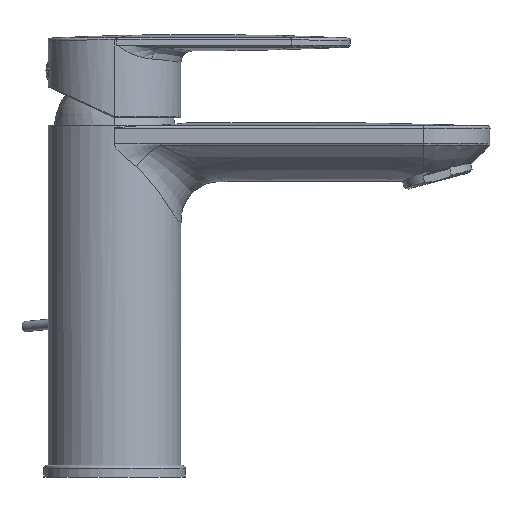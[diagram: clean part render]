
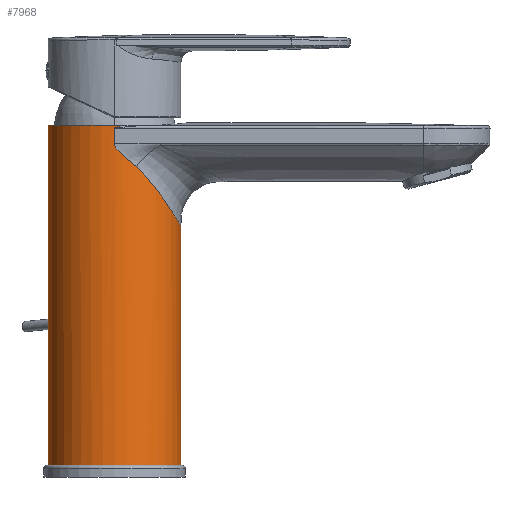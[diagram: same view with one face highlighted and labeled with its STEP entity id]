
A CAD part, top view. The second image highlights one B-rep face of the part: STEP entity #7968.
In plain terms, the highlighted cylindrical face has radius 22.5 mm (diameter 45 mm), a partial arc.
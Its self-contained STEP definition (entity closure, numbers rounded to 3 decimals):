
#1795=CARTESIAN_POINT('',(0.,115.5,0.));
#1796=DIRECTION('',(0.,-1.,0.));
#1797=DIRECTION('',(0.125,0.,0.992));
#1798=AXIS2_PLACEMENT_3D('',#1795,#1796,#1797);
#1894=DIRECTION('',(0.,1.,0.));
#1895=VECTOR('',#1894,81.391);
#1896=CARTESIAN_POINT('',(22.5,0.,0.));
#1897=LINE('',#1896,#1895);
#1968=CARTESIAN_POINT('',(0.,0.,0.));
#1969=DIRECTION('',(0.,1.,0.));
#1970=DIRECTION('',(-1.,0.,0.));
#1971=AXIS2_PLACEMENT_3D('',#1968,#1969,#1970);
#2031=DIRECTION('',(0.,1.,0.));
#2032=VECTOR('',#2031,115.5);
#2033=CARTESIAN_POINT('',(-22.5,0.,0.));
#2034=LINE('',#2033,#2032);
#2035=CARTESIAN_POINT('',(2.817,115.5,22.323));
#2036=CARTESIAN_POINT('',(2.596,115.432,22.351));
#2037=CARTESIAN_POINT('',(2.159,115.295,22.399));
#2038=CARTESIAN_POINT('',(1.614,115.118,22.444));
#2039=CARTESIAN_POINT('',(1.185,114.974,22.47));
#2040=CARTESIAN_POINT('',(0.926,114.885,22.481));
#2041=CARTESIAN_POINT('',(0.731,114.816,22.488));
#2042=CARTESIAN_POINT('',(0.592,114.766,22.492));
#2043=CARTESIAN_POINT('',(0.444,114.714,22.496));
#2044=CARTESIAN_POINT('',(0.278,114.672,22.499));
#2045=CARTESIAN_POINT('',(0.123,114.611,22.5));
#2046=CARTESIAN_POINT('',(0.04,114.543,22.5));
#2047=CARTESIAN_POINT('',(0.,114.507,22.5));
#2049=DIRECTION('',(0.,-1.,0.));
#2050=VECTOR('',#2049,5.272);
#2051=CARTESIAN_POINT('',(0.,114.507,22.5));
#2052=LINE('',#2051,#2050);
#2053=CARTESIAN_POINT('',(0.,109.236,
22.5));
#2054=CARTESIAN_POINT('',(-0.001,109.205,
22.5));
#2055=CARTESIAN_POINT('',(-0.01,109.144,
22.5));
#2056=CARTESIAN_POINT('',(-0.004,109.052,
22.5));
#2057=CARTESIAN_POINT('',(-0.003,108.991,
22.5));
#2058=CARTESIAN_POINT('',(0.,108.96,22.5));
#2060=CARTESIAN_POINT('',(0.,108.96,22.5));
#2061=CARTESIAN_POINT('',(-0.01,108.839,
22.5));
#2062=CARTESIAN_POINT('',(0.024,108.566,22.5));
#2063=CARTESIAN_POINT('',(0.328,107.879,22.498));
#2064=CARTESIAN_POINT('',(0.607,107.471,22.492));
#2065=CARTESIAN_POINT('',(0.932,107.05,22.482));
#2066=CARTESIAN_POINT('',(1.397,106.523,22.459));
#2067=CARTESIAN_POINT('',(2.022,105.894,22.413));
#2068=CARTESIAN_POINT('',(2.593,105.376,22.352));
#2069=CARTESIAN_POINT('',(2.911,105.095,22.311));
#2071=CARTESIAN_POINT('',(7.367,101.361,21.26));
#2072=CARTESIAN_POINT('',(7.5,101.236,21.213));
#2073=CARTESIAN_POINT('',(7.767,100.985,21.119));
#2074=CARTESIAN_POINT('',(8.297,100.479,20.917));
#2075=CARTESIAN_POINT('',(9.209,99.592,20.543));
#2076=CARTESIAN_POINT('',(10.471,98.309,19.938));
#2077=CARTESIAN_POINT('',(11.911,96.724,19.112));
#2078=CARTESIAN_POINT('',(13.263,95.056,18.2));
#2079=CARTESIAN_POINT('',(14.543,93.372,17.194));
#2080=CARTESIAN_POINT('',(15.756,91.706,16.091));
#2081=CARTESIAN_POINT('',(16.898,90.08,14.888));
#2082=CARTESIAN_POINT('',(17.96,88.529,13.588));
#2083=CARTESIAN_POINT('',(18.772,87.308,12.427));
#2084=CARTESIAN_POINT('',(19.378,86.374,11.446));
#2085=CARTESIAN_POINT('',(19.938,85.492,10.454));
#2086=CARTESIAN_POINT('',(20.581,84.457,9.151));
#2087=CARTESIAN_POINT('',(21.253,83.369,7.462));
#2088=CARTESIAN_POINT('',(21.798,82.493,5.679));
#2089=CARTESIAN_POINT('',(22.2,81.857,3.824));
#2090=CARTESIAN_POINT('',(22.446,81.475,1.921));
#2091=CARTESIAN_POINT('',(22.499,81.392,0.64));
#2092=CARTESIAN_POINT('',(22.5,81.391,0.));
#2094=CARTESIAN_POINT('',(2.817,115.5,22.323));
#2387=CARTESIAN_POINT('',(7.367,101.361,21.26));
#2388=CARTESIAN_POINT('',(6.967,101.718,21.398));
#2389=CARTESIAN_POINT('',(6.105,102.47,21.673));
#2390=CARTESIAN_POINT('',(4.554,103.701,22.055));
#2391=CARTESIAN_POINT('',(3.473,104.616,22.238));
#2392=CARTESIAN_POINT('',(2.911,105.095,22.311));
#3373=VERTEX_POINT('',#2094);
#3374=CARTESIAN_POINT('',(-22.5,115.5,0.));
#3375=VERTEX_POINT('',#3374);
#3380=CARTESIAN_POINT('',(22.5,0.,0.));
#3381=CARTESIAN_POINT('',(-22.5,0.,0.));
#3382=VERTEX_POINT('',#3380);
#3383=VERTEX_POINT('',#3381);
#3384=CARTESIAN_POINT('',(22.5,81.391,0.));
#3385=VERTEX_POINT('',#3384);
#3412=VERTEX_POINT('',#2047);
#3413=CARTESIAN_POINT('',(0.,109.236,
22.5));
#3414=VERTEX_POINT('',#3413);
#3415=VERTEX_POINT('',#2058);
#3416=VERTEX_POINT('',#2069);
#3417=VERTEX_POINT('',#2387);
#7945=CARTESIAN_POINT('',(0.,-4.54,0.));
#7946=DIRECTION('',(0.,-1.,0.));
#7947=DIRECTION('',(1.,0.,0.));
#7948=AXIS2_PLACEMENT_3D('',#7945,#7946,#7947);
#7949=CYLINDRICAL_SURFACE('',#7948,22.5);
#7950=ORIENTED_EDGE('',*,*,#7866,.F.);
#7951=ORIENTED_EDGE('',*,*,#7839,.T.);
#7952=ORIENTED_EDGE('',*,*,#7425,.F.);
#7954=ORIENTED_EDGE('',*,*,#7953,.T.);
#7956=ORIENTED_EDGE('',*,*,#7955,.T.);
#7958=ORIENTED_EDGE('',*,*,#7957,.T.);
#7960=ORIENTED_EDGE('',*,*,#7959,.T.);
#7962=ORIENTED_EDGE('',*,*,#7961,.F.);
#7964=ORIENTED_EDGE('',*,*,#7963,.T.);
#7965=ORIENTED_EDGE('',*,*,#7825,.F.);
#7966=EDGE_LOOP('',(#7950,#7951,#7952,#7954,#7956,#7958,#7960,#7962,#7964,
#7965));
#7967=FACE_OUTER_BOUND('',#7966,.F.);
#7968=ADVANCED_FACE('',(#7967),#7949,.T.);
#1799=CIRCLE('',#1798,22.5);
#1972=CIRCLE('',#1971,22.5);
#2048=B_SPLINE_CURVE_WITH_KNOTS('',3,(#2035,#2036,#2037,#2038,#2039,#2040,#2041,
#2042,#2043,#2044,#2045,#2046,#2047),.UNSPECIFIED.,.F.,.F.,(4,1,1,1,1,1,1,1,1,1,
4),(0.,0.234,0.462,0.576,
0.689,0.736,0.783,0.838,
0.892,0.946,1.),.UNSPECIFIED.);
#2059=B_SPLINE_CURVE_WITH_KNOTS('',3,(#2053,#2054,#2055,#2056,#2057,#2058),
.UNSPECIFIED.,.F.,.F.,(4,1,1,4),(0.,0.333,0.667,1.),
.UNSPECIFIED.);
#2070=B_SPLINE_CURVE_WITH_KNOTS('',3,(#2060,#2061,#2062,#2063,#2064,#2065,#2066,
#2067,#2068,#2069),.UNSPECIFIED.,.F.,.F.,(4,1,1,1,1,1,1,4),(0.,
0.143,0.286,0.429,0.571,
0.714,0.857,1.),.UNSPECIFIED.);
#2093=B_SPLINE_CURVE_WITH_KNOTS('',3,(#2071,#2072,#2073,#2074,#2075,#2076,#2077,
#2078,#2079,#2080,#2081,#2082,#2083,#2084,#2085,#2086,#2087,#2088,#2089,#2090,
#2091,#2092),.UNSPECIFIED.,.F.,.F.,(4,1,1,1,1,1,1,1,1,1,1,1,1,1,1,1,1,1,1,4),(
0.,0.019,0.037,0.075,0.148,
0.221,0.292,0.362,0.43,
0.497,0.562,0.626,0.658,
0.688,0.746,0.8,0.852,
0.902,0.951,1.),.UNSPECIFIED.);
#2393=B_SPLINE_CURVE_WITH_KNOTS('',3,(#2387,#2388,#2389,#2390,#2391,#2392),
.UNSPECIFIED.,.F.,.F.,(4,1,1,4),(0.,0.333,0.667,1.),
.UNSPECIFIED.);
#7425=EDGE_CURVE('',#3373,#3375,#1799,.T.);
#7825=EDGE_CURVE('',#3382,#3385,#1897,.T.);
#7839=EDGE_CURVE('',#3383,#3375,#2034,.T.);
#7866=EDGE_CURVE('',#3383,#3382,#1972,.T.);
#7953=EDGE_CURVE('',#3373,#3412,#2048,.T.);
#7955=EDGE_CURVE('',#3412,#3414,#2052,.T.);
#7957=EDGE_CURVE('',#3414,#3415,#2059,.T.);
#7959=EDGE_CURVE('',#3415,#3416,#2070,.T.);
#7961=EDGE_CURVE('',#3417,#3416,#2393,.T.);
#7963=EDGE_CURVE('',#3417,#3385,#2093,.T.);
